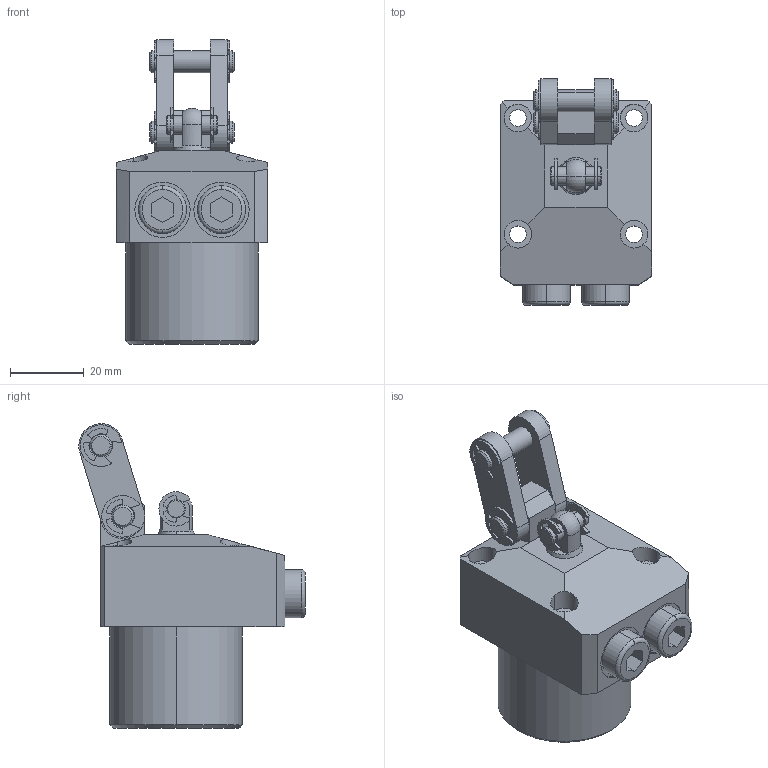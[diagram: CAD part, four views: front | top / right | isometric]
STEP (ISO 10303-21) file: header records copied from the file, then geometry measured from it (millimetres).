
FILE_DESCRIPTION (( 'STEP AP214' ), '1' );
FILE_NAME ('4171 121 C.STEP', '2017-10-17T04:24:55', ( '' ), ( '' ), 'SwSTEP 2.0', 'SolidWorks 2015', '' );
FILE_SCHEMA (( 'AUTOMOTIVE_DESIGN' ));
Length unit declared in the file: millimetre
Products named in the file (8): PR; BODY; 4171 121 C; (type e)_is_IS 3075(Part3) - 4; PIN1; (type e)_is_IS 3075(Part3) - 5; PIN; PLATE
Assembly tree (13 placements, depth 2):
  4171 121 C
    BODY
    PR
    PLATE  x2
    PIN  x2
    (type e)_is_IS 3075(Part3) - 5  x4
    PIN1
    (type e)_is_IS 3075(Part3) - 4  x2
Bounding box: 41 x 61.36 x 82.61 mm (x, y, z)
Volume: 78320.4 mm3; surface area: 20399.7 mm2
Topology: 13 solids, 13 shells, 377 faces, 941 edges, 603 vertices
Faces by surface type: cylinder 196, plane 125, cone 50, torus 4, sphere 2
Entity records: 7617 total; most frequent: CARTESIAN_POINT 1449, DIRECTION 1305, ORIENTED_EDGE 1150, EDGE_CURVE 575, AXIS2_PLACEMENT_3D 509, VERTEX_POINT 369, LINE 287, VECTOR 287
